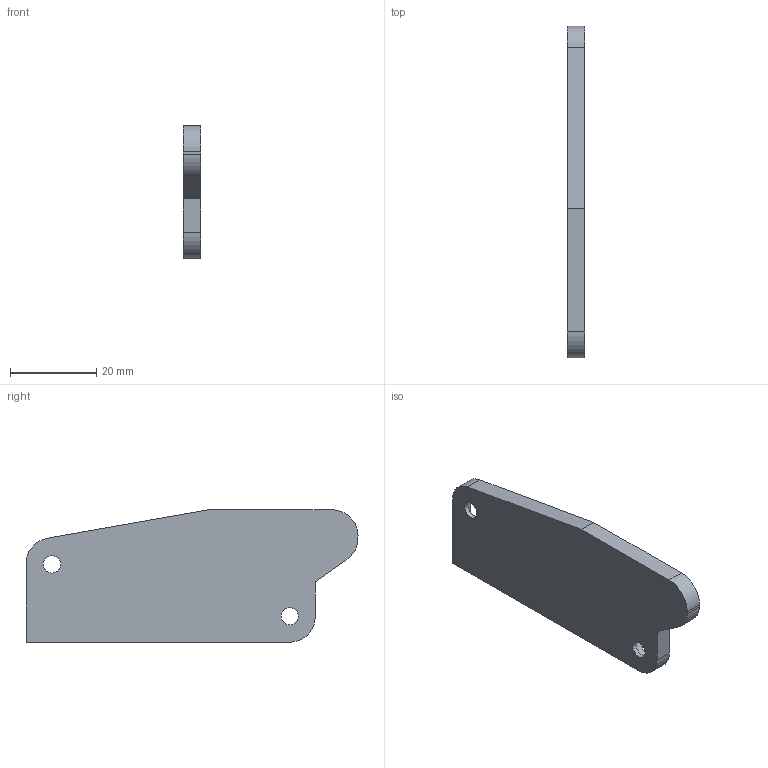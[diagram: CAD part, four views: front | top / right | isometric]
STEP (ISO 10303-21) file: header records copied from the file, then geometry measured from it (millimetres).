
FILE_DESCRIPTION (( 'STEP AP203' ), '1' );
FILE_NAME ('Steuerkurve links_092860.STEP', '2024-02-26T14:11:04', ( '' ), ( '' ), 'SwSTEP 2.0', 'SolidWorks 2023', '' );
FILE_SCHEMA (( 'CONFIG_CONTROL_DESIGN' ));
Length unit declared in the file: millimetre
Products named in the file (1): Steuerkurve links_092860
Bounding box: 4 x 76.8 x 30.65 mm (x, y, z)
Volume: 7621.9 mm3; surface area: 4937.6 mm2
Topology: 1 solids, 1 shells, 26 faces, 66 edges, 44 vertices
Faces by surface type: plane 14, cylinder 12
Entity records: 879 total; most frequent: DIRECTION 144, CARTESIAN_POINT 137, ORIENTED_EDGE 132, EDGE_CURVE 66, AXIS2_PLACEMENT_3D 51, VERTEX_POINT 44, VECTOR 42, LINE 42
